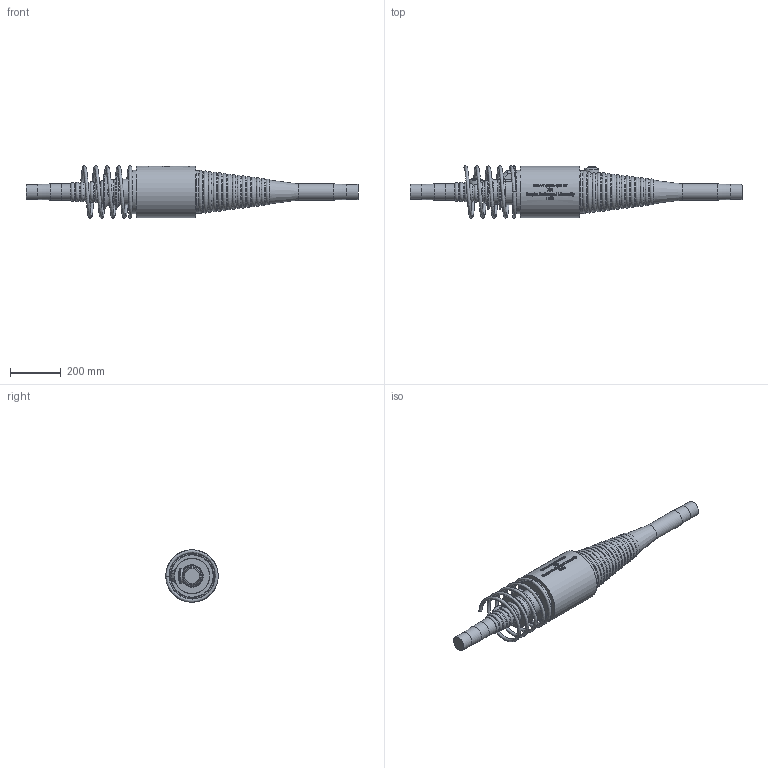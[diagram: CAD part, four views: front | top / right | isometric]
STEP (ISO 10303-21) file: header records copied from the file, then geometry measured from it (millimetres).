
FILE_DESCRIPTION(/* description */ (''),/* implementation_level */ '2;1');
FILE_NAME(/* name */ 'BBR VT CONA CMI BT 706_Coupler H Assembly_CS-43,35_Helix_Simplify.stp',/* time_stamp */ '2024-11-20T13:41:34+01:00',/* author */ ('tk'),/* organization */ (''),/* preprocessor_version */ 'ST-DEVELOPER v20',/* originating_system */ 'Autodesk Inventor 2024',/* authorisation */ '');
FILE_SCHEMA (('AUTOMOTIVE_DESIGN { 1 0 10303 214 3 1 1 }'));
Products named in the file (1): BBR VT CONA CMI BT 706_Coupler H Assembly_CS-43,35_Helix_Simplify1
Bounding box: 1303 x 204.97 x 205 mm (x, y, z)
Volume: 16022547.1 mm3; surface area: 657905.8 mm2
Topology: 2 solids, 2 shells, 950 faces, 2485 edges, 1608 vertices
Faces by surface type: bspline 381, plane 340, cylinder 91, torus 89, cone 25, sphere 24
Full cylindrical faces by diameter (mm): 34 x2, 57 x2, 59 x2, 64 x2, 133.801 x1, 139.387 x1, 170 x1, 203 x1
Entity records: 43432 total; most frequent: CARTESIAN_POINT 21079, ORIENTED_EDGE 4958, DIRECTION 3563, EDGE_CURVE 2479, VERTEX_POINT 1608, AXIS2_PLACEMENT_3D 1278, EDGE_LOOP 1027, LINE 1007
